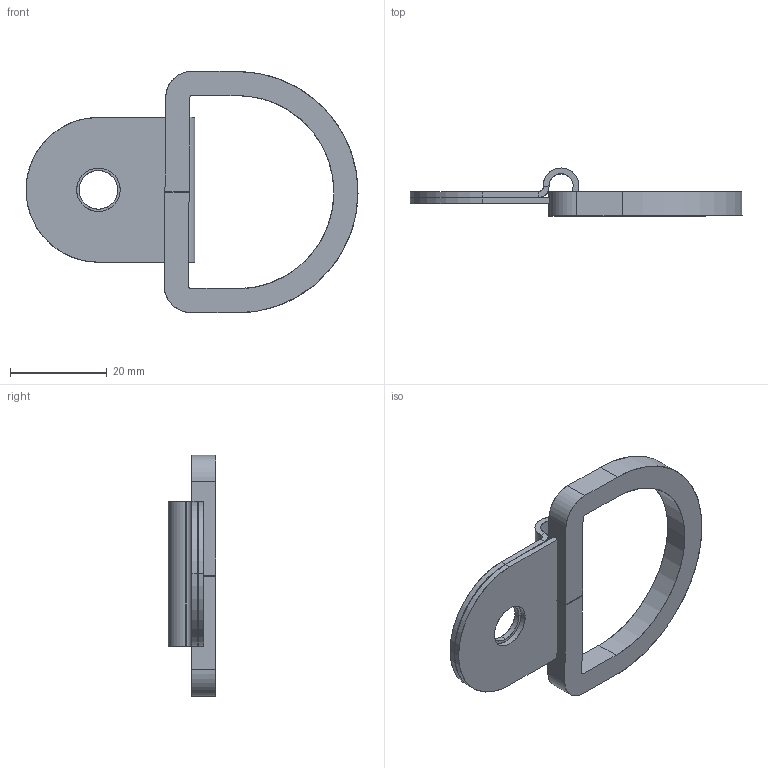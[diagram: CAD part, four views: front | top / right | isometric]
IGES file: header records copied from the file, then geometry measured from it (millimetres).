
Start section: SolidWorks IGES file using analytic representation for surfaces
Global section: file name: C:\Users\cbrechard\Desktop\30066.IGS; native system: SolidWorks 2017; preprocessor: SolidWorks 2017; author: cbrechard; date: 190904.154952; units: millimetre
Bounding box: 68.79 x 9.9 x 50.08 mm (x, y, z)
Surface area: 6993.5 mm2 (no closed solid volume)
Topology: 0 solids, 0 shells, 48 faces, 756 edges, 756 vertices
Faces by surface type: revolution 24, bspline 24
